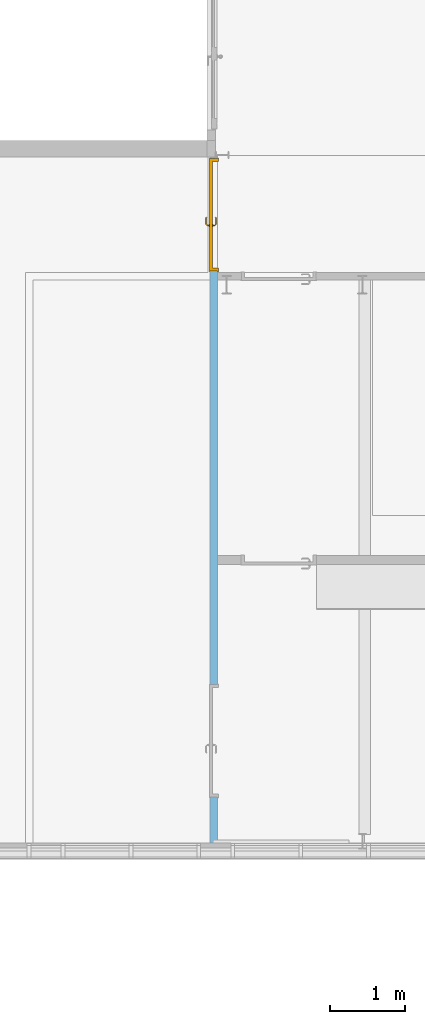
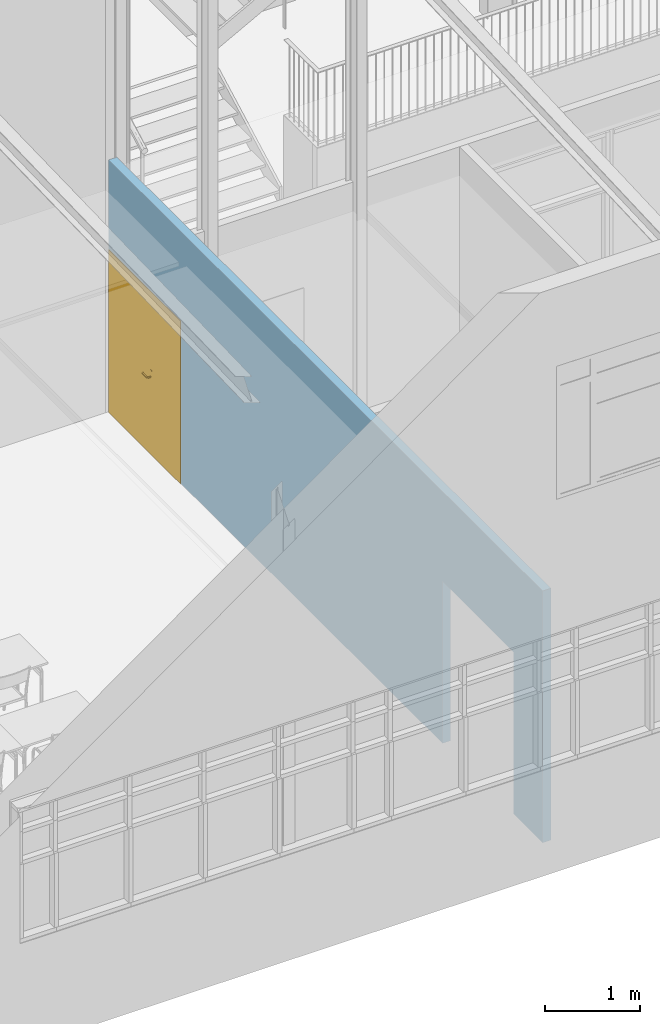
# One storey, part 80 of 137: 1 door, 2 openings, plus 1 element that does not belong to this part.
"""IFC2X3 building model written with IfcOpenShell, lengths in centimetres."""

from ifc_helpers import new_model, entity, si_unit, converted_unit, derived_unit, direction, frame, frame_2d, origin, place, context, subcontext, project, spatial, polyline, rectangle, extrude, clip, bounded_halfspace, faceted_brep, source, transform, mapped, material, material_list, layer, layer_set, layer_usage, type_object, type_shapes, element, fill, save


model = new_model("IFC2X3")

# Units and contexts
model_context = context("Model", 3, precision=0.001, world=origin(), true_north=direction((6.12303176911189e-17, 1.0)))
body_context = subcontext(model_context, "Body", "Model", "MODEL_VIEW")
ifc_project = project(units=[si_unit("LENGTHUNIT", "METRE", prefix="CENTI"), si_unit("AREAUNIT", "SQUARE_METRE"), si_unit("VOLUMEUNIT", "CUBIC_METRE"), converted_unit("PLANEANGLEUNIT", "DEGREE", entity("IfcRatioMeasure", 0.0174532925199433), si_unit("PLANEANGLEUNIT", "RADIAN"), dimensions=[0, 0, 0, 0, 0, 0, 0]), si_unit("MASSUNIT", "GRAM", prefix="KILO"), si_unit("TIMEUNIT", "SECOND"), si_unit("FREQUENCYUNIT", "HERTZ"), si_unit("THERMODYNAMICTEMPERATUREUNIT", "DEGREE_CELSIUS"), derived_unit("THERMALTRANSMITTANCEUNIT", [(si_unit("MASSUNIT", "GRAM", prefix="KILO"), 1), (si_unit("THERMODYNAMICTEMPERATUREUNIT", "KELVIN"), -1), (si_unit("TIMEUNIT", "SECOND"), -3)]), derived_unit("VOLUMETRICFLOWRATEUNIT", [(si_unit("LENGTHUNIT", "METRE"), 3), (si_unit("TIMEUNIT", "SECOND"), -1)]), si_unit("ELECTRICCURRENTUNIT", "AMPERE"), si_unit("ELECTRICVOLTAGEUNIT", "VOLT"), si_unit("POWERUNIT", "WATT"), si_unit("FORCEUNIT", "NEWTON", prefix="KILO"), si_unit("ILLUMINANCEUNIT", "LUX"), si_unit("LUMINOUSFLUXUNIT", "LUMEN"), si_unit("LUMINOUSINTENSITYUNIT", "CANDELA"), derived_unit("USERDEFINED", [(si_unit("MASSUNIT", "GRAM", prefix="KILO"), -1), (si_unit("LENGTHUNIT", "METRE"), -2), (si_unit("TIMEUNIT", "SECOND"), 3), (si_unit("LUMINOUSFLUXUNIT", "LUMEN"), 1)]), derived_unit("LINEARVELOCITYUNIT", [(si_unit("LENGTHUNIT", "METRE"), 1), (si_unit("TIMEUNIT", "SECOND"), -1)]), si_unit("PRESSUREUNIT", "PASCAL"), derived_unit("USERDEFINED", [(si_unit("LENGTHUNIT", "METRE"), -2), (si_unit("MASSUNIT", "GRAM", prefix="KILO"), 1), (si_unit("TIMEUNIT", "SECOND"), -2)])], contexts=[model_context])

# Site, building, storey
site_placement = place(None, frame((8.62739174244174, -249.285249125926, 0.0)))
site = spatial("IfcSite", under=ifc_project, at=site_placement, Name="Default", CompositionType="ELEMENT")
building_placement = place(site_placement, origin())
building = spatial("IfcBuilding", under=site, at=building_placement, CompositionType="ELEMENT")
storey_placement = place(building_placement, origin())
storey = spatial("IfcBuildingStorey", under=building, at=storey_placement, Name="RDC", CompositionType="ELEMENT", Elevation=-8.82465566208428e-11)

# Wall, openings, door
ifc_material_1 = material(Name="Plâtre EXISTANT")
ifc_layer = layer(ifc_material_1, 10.0)
ifc_layer_set = layer_set([ifc_layer], Name="Mur de base:PLA EXISTANT 10")
ifc_layer_usage = layer_usage(ifc_layer_set, "AXIS2", "NEGATIVE", 5.0)
wall_type = type_object("IfcWallType", Name="Mur de base:PLA EXISTANT 10", PredefinedType="STANDARD", material=ifc_layer_set)
wall_placement = place(storey_placement, frame((849.0, 931.0, 0.0), z_axis=(0.0, 0.0, 1.0), x_axis=(0.0, -1.0, 0.0)))
wall = element("IfcWallStandardCase", 1, at=wall_placement, inside=storey, type_object=wall_type, material=ifc_layer_usage, Name="Mur de base:PLA EXISTANT 10", ObjectType="Mur de base:PLA EXISTANT 10", context=body_context, shape_type="Clipping", body=[
    clip(extrude(rectangle(XDim=909.0, YDim=10.0000000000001, at=frame_2d((454.5, -2.66453525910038e-15), x_axis=(-1.0, 0.0))), origin(), (0.0, 0.0, 1.0), 322.000000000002), bounded_halfspace(frame((0.0, -5.0, 322.0), z_axis=(0.0, 0.0, -1.0), x_axis=(0.0, -1.0, 0.0)), True, frame((0.0, -5.0, 322.0)), polyline([(0.0, 0.0), (909.0, 0.0), (909.0, 10.0), (540.0, 10.0), (528.0, 10.0), (163.0, 10.0), (153.0, 10.0), (0.0, 10.0), (0.0, 0.0)]))),
])
opening_1_placement = place(wall_placement, frame((848.219999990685, 5.0, 0.0)))
element("IfcOpeningElement", 2, at=opening_1_placement, cuts=wall, Name="Double(R)_bois_Existant_mu:143 x 204 cm:1", ObjectType="Opening", context=body_context, shape_type="SweptSolid", body=[
    extrude(rectangle(XDim=206.999999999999, YDim=149.0, at=frame_2d((103.499999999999, 74.4999999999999), x_axis=(1.0, 0.0))), frame((0.0, 0.0, 0.0), z_axis=(0.0, -1.0, 0.0), x_axis=(0.0, 0.0, 1.0)), (0.0, 0.0, 1.0), 10.0),
])
opening_2_placement = place(wall_placement, frame((151.0, 5.0, 0.0)))
opening_2 = element("IfcOpeningElement", 3, at=opening_2_placement, cuts=wall, Name="Tierce(R)_bois_mu:143 x 204 cm:1", ObjectType="Opening", context=body_context, shape_type="SweptSolid", body=[
    extrude(rectangle(XDim=206.999999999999, YDim=149.0, at=frame_2d((103.499999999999, 74.4999999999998), x_axis=(1.0, 0.0))), frame((0.0, 0.0, 0.0), z_axis=(0.0, -1.0, 0.0), x_axis=(0.0, 0.0, 1.0)), (0.0, 0.0, 1.0), 10.0),
])
ifc_material_2 = material(Name="Aluminium-Dorma Metal-Anodized Silver")
ifc_material_3 = material(Name="Porte - Cadre")
ifc_material_4 = material(Name="Porte - Panneau")
ifc_material_list_1 = material_list([ifc_material_2, ifc_material_3, ifc_material_4])
ifc_material_list_2 = material_list([ifc_material_2, ifc_material_3, ifc_material_4])
door_style = type_object("IfcDoorStyle", Name="143 x 204 cm", ConstructionType="NOTDEFINED", OperationType="NOTDEFINED", ParameterTakesPrecedence=False, Sizeable=False, material=ifc_material_list_2)
shared_shape = source(origin(), body_context, "Body", "Brep", [
    faceted_brep([(88.7025298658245, 3.69999999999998, 100.778044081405), (88.2974701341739, 3.69999999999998, 100.778044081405), (87.8999999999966, 3.69999999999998, 100.699999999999), (87.8999999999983, 3.69999999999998, 99.3000000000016), (88.2974701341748, 3.69999999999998, 99.2219559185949), (88.7025298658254, 3.69999999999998, 99.2219559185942), (89.1000000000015, 3.69999999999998, 99.2999999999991), (89.1000000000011, 3.69999999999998, 100.699999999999), (87.8999999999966, 5.94852045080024, 100.699999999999), (87.8999999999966, 5.94852045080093, 99.3000000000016), (88.2974701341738, 6.1131579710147, 100.778044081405), (88.7025298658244, 6.2809392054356, 100.778044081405), (87.0838906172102, 7.89957845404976, 100.778044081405), (86.9161093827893, 7.49451872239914, 100.778044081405), (78.5793122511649, 7.49451872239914, 100.778044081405), (78.411531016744, 7.89957845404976, 100.778044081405), (77.6451046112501, 7.13315204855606, 100.778044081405), (77.9315250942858, 6.84673156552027, 100.778044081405), (89.1000000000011, 6.44557672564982, 100.699999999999), (89.1000000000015, 6.44557672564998, 99.2999999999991), (88.7025298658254, 6.28093920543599, 99.2219559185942), (88.2974701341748, 6.11315797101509, 99.2219559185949), (86.9161093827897, 7.49451872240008, 99.2219559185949), (87.0838906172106, 7.8995784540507, 99.2219559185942), (78.4115310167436, 7.8995784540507, 99.2219559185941), (78.5793122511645, 7.49451872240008, 99.2219559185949), (77.9315250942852, 6.84673156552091, 99.2219559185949), (77.6451046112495, 7.1331520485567, 99.2219559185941), (86.7514718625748, 7.09704858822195, 100.699999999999), (86.7514718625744, 7.09704858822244, 99.3000000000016), (87.2485281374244, 8.29704858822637, 100.699999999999), (87.2485281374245, 8.29704858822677, 99.2999999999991), (82.7477108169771, 7.09704858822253, 100.699999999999), (78.7439497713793, 7.09704858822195, 100.699999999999), (78.7439497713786, 7.09704858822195, 99.3000000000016), (82.7477108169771, 7.09704858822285, 99.3000000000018), (82.7477108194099, 7.71249275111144, 100.787811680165), (82.2399422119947, 8.29704858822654, 100.699999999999), (78.2468934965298, 8.29704858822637, 100.699999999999), (83.2554791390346, 8.29704858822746, 99.2999999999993), (78.2468934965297, 8.29704858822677, 99.2999999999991), (82.7477107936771, 7.71249274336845, 99.2121883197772), (77.3640507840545, 7.41420587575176, 100.699999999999), (77.364050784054, 7.41420587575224, 99.2999999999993), (78.2125789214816, 6.5656777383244, 99.3000000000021), (78.2125789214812, 6.56567773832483, 100.699999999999)], [[[0, 1, 2, 3, 4, 5, 6, 7]], [[8, 9, 3, 2]], [[1, 10, 8, 2]], [[1, 0, 11, 12, 13, 10]], [[14, 15, 16, 17]], [[7, 18, 11, 0]], [[18, 7, 6, 19]], [[6, 5, 20, 19]], [[5, 4, 21, 22, 23, 20]], [[24, 25, 26, 27]], [[4, 3, 9, 21]], [[28, 29, 9, 8]], [[8, 10, 13, 28]], [[18, 30, 12, 11]], [[31, 30, 18, 19]], [[19, 20, 23, 31]], [[21, 9, 29, 22]], [[29, 28, 32, 33, 34, 35]], [[36, 32, 13]], [[37, 38, 15]], [[37, 12, 30]], [[36, 12, 37]], [[14, 32, 36]], [[36, 15, 14]], [[28, 13, 32]], [[32, 14, 33]], [[12, 36, 13]], [[15, 36, 37]], [[30, 31, 39, 40, 38, 37]], [[23, 41, 39]], [[24, 39, 41]], [[39, 31, 23]], [[39, 24, 40]], [[22, 35, 41]], [[41, 23, 22]], [[41, 35, 25]], [[35, 22, 29]], [[34, 25, 35]], [[24, 41, 25]], [[17, 16, 42, 43, 27, 26, 44, 45]], [[45, 44, 34, 33]], [[33, 14, 17, 45]], [[15, 38, 42, 16]], [[43, 42, 38, 40]], [[24, 27, 43, 40]], [[34, 44, 26, 25]]]),
    faceted_brep([(88.2974701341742, -1.30000000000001, 100.778044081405), (88.7025298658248, -1.30000000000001, 100.778044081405), (89.1000000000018, -1.30000000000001, 100.699999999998), (89.1000000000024, -1.30000000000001, 99.2999999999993), (88.7025298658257, -1.30000000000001, 99.2219559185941), (88.297470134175, -1.30000000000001, 99.2219559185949), (87.899999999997, -1.30000000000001, 99.3000000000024), (87.8999999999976, -1.30000000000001, 100.699999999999), (88.7025298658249, -3.90045754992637, 100.778044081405), (89.100000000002, -4.06509507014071, 100.699999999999), (88.2974701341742, -3.73267631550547, 100.778044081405), (86.9298602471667, -5.10028620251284, 100.778044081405), (87.0976414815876, -5.50534593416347, 100.778044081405), (78.4142453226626, -5.50534593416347, 100.778044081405), (78.5820265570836, -5.10028620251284, 100.778044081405), (77.9342394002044, -4.4524990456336, 100.778044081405), (77.6478189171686, -4.73891952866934, 100.778044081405), (87.8999999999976, -3.56803879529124, 100.699999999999), (87.899999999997, -3.56803879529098, 99.3000000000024), (88.297470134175, -3.7326763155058, 99.2219559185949), (88.7025298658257, -3.9004575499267, 99.2219559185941), (87.097641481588, -5.50534593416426, 99.2219559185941), (86.9298602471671, -5.10028620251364, 99.2219559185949), (78.5820265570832, -5.10028620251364, 99.2219559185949), (78.4142453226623, -5.50534593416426, 99.2219559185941), (77.6478189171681, -4.73891952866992, 99.2219559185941), (77.9342394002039, -4.45249904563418, 99.2219559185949), (89.1000000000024, -4.06509507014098, 99.2999999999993), (87.2622790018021, -5.90281606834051, 100.699999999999), (86.7652227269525, -4.70281606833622, 100.699999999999), (86.7652227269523, -4.70281606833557, 99.3000000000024), (87.2622790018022, -5.90281606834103, 99.2999999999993), (82.7559433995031, -5.31828027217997, 100.787811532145), (83.269230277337, -5.90281606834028, 100.699999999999), (78.2496078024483, -5.90281606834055, 100.699999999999), (82.755943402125, -4.70281606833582, 100.699999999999), (78.7466640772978, -4.70281606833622, 100.699999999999), (82.7559436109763, -4.70281606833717, 99.3000000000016), (78.7466640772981, -4.70281606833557, 99.3000000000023), (82.7559434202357, -5.31828027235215, 99.2121884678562), (82.2426572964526, -5.90281606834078, 99.2999999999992), (78.249607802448, -5.90281606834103, 99.2999999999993), (78.2152932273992, -4.17144521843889, 99.3000000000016), (77.366765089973, -5.01997335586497, 99.2999999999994), (77.3667650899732, -5.01997335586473, 100.699999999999), (78.2152932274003, -4.17144521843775, 100.699999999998)], [[[0, 1, 2, 3, 4, 5, 6, 7]], [[2, 1, 8, 9]], [[1, 0, 10, 11, 12, 8]], [[13, 14, 15, 16]], [[0, 7, 17, 10]], [[18, 17, 7, 6]], [[5, 19, 18, 6]], [[5, 4, 20, 21, 22, 19]], [[23, 24, 25, 26]], [[3, 27, 20, 4]], [[9, 27, 3, 2]], [[9, 8, 12, 28]], [[10, 17, 29, 11]], [[30, 29, 17, 18]], [[18, 19, 22, 30]], [[20, 27, 31, 21]], [[28, 31, 27, 9]], [[12, 32, 33]], [[13, 33, 32]], [[33, 28, 12]], [[33, 13, 34]], [[11, 35, 32]], [[32, 12, 11]], [[32, 35, 14]], [[35, 11, 29]], [[36, 14, 35]], [[13, 32, 14]], [[29, 30, 37, 38, 36, 35]], [[39, 37, 22]], [[40, 41, 24]], [[40, 21, 31]], [[39, 21, 40]], [[23, 37, 39]], [[39, 24, 23]], [[30, 22, 37]], [[37, 23, 38]], [[21, 39, 22]], [[24, 39, 40]], [[31, 28, 33, 34, 41, 40]], [[42, 26, 25, 43, 44, 16, 15, 45]], [[13, 16, 44, 34]], [[36, 45, 15, 14]], [[42, 45, 36, 38]], [[38, 23, 26, 42]], [[24, 41, 43, 25]], [[44, 43, 41, 34]]]),
    faceted_brep([(88.4999999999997, 3.19999999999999, 86.4641016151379), (89.5352761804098, 3.19999999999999, 86.6003983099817), (90.4999999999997, 3.19999999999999, 87.0), (90.4999999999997, 3.19999999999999, 108.0), (89.5352761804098, 3.19999999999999, 108.399601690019), (88.4999999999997, 3.19999999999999, 108.535898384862), (87.4647238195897, 3.19999999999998, 108.399601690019), (86.4999999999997, 3.19999999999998, 108.0), (86.4999999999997, 3.19999999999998, 87.0), (87.4647238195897, 3.19999999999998, 86.6003983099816), (88.4999999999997, 3.69999999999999, 108.535898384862), (89.5352761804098, 3.69999999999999, 108.399601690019), (90.4999999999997, 3.69999999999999, 108.0), (90.4999999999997, 3.69999999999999, 87.0), (89.5352761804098, 3.69999999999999, 86.6003983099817), (88.4999999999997, 3.69999999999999, 86.4641016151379), (87.4647238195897, 3.69999999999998, 86.6003983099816), (86.4999999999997, 3.69999999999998, 87.0), (86.4999999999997, 3.69999999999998, 108.0), (87.4647238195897, 3.69999999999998, 108.399601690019)], [[[0, 1, 2, 3, 4, 5, 6, 7, 8, 9]], [[10, 11, 12, 13, 14, 15, 16, 17, 18, 19]], [[6, 19, 18, 7]], [[5, 10, 19, 6]], [[4, 11, 10, 5]], [[4, 3, 12, 11]], [[12, 3, 2, 13]], [[1, 14, 13, 2]], [[0, 15, 14, 1]], [[9, 16, 15, 0]], [[9, 8, 17, 16]], [[17, 8, 7, 18]]]),
    faceted_brep([(88.4999999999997, -1.30000000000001, 86.4641016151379), (89.5352761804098, -1.30000000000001, 86.6003983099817), (90.4999999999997, -1.3, 87.0), (90.4999999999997, -1.3, 108.0), (89.5352761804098, -1.30000000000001, 108.399601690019), (88.4999999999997, -1.30000000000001, 108.535898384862), (87.4647238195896, -1.30000000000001, 108.399601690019), (86.4999999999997, -1.30000000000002, 108.0), (86.4999999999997, -1.30000000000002, 87.0), (87.4647238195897, -1.30000000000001, 86.6003983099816), (90.4999999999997, -0.800000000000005, 108.0), (90.4999999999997, -0.800000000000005, 87.0), (89.5352761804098, -0.800000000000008, 86.6003983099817), (88.4999999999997, -0.800000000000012, 86.4641016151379), (87.4647238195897, -0.800000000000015, 86.6003983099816), (86.4999999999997, -0.800000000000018, 87.0), (86.4999999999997, -0.800000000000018, 108.0), (87.4647238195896, -0.800000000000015, 108.399601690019), (88.4999999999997, -0.800000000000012, 108.535898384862), (89.5352761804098, -0.800000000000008, 108.399601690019)], [[[0, 1, 2, 3, 4, 5, 6, 7, 8, 9]], [[10, 11, 12, 13, 14, 15, 16, 17, 18, 19]], [[1, 12, 11, 2]], [[0, 13, 12, 1]], [[9, 14, 13, 0]], [[9, 8, 15, 14]], [[15, 8, 7, 16]], [[6, 17, 16, 7]], [[5, 18, 17, 6]], [[4, 19, 18, 5]], [[4, 3, 10, 19]], [[10, 3, 2, 11]]]),
    faceted_brep([(0.0, 0.0, 0.0), (0.0, 10.0, 0.0), (-1.0, 10.0, 0.0), (-1.0, 10.8000000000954, 0.0), (4.0, 10.8000000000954, 0.0), (4.0, 3.2, 0.0), (3.0, 3.2, 0.0), (3.0, -0.799999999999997, 0.0), (-1.0, -0.799999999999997, 0.0), (-1.0, 0.0, 0.0), (0.0, 0.0, 207.0), (0.0, 10.0, 207.0), (149.0, 10.0, 207.0), (149.0, 10.0, 0.0), (150.0, 10.0, 0.0), (150.0, 10.0, 208.0), (-1.0, 10.0, 208.0), (-1.0, 10.8000000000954, 208.0), (150.0, 10.8000000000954, 208.0), (150.0, 10.8000000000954, 0.0), (145.0, 10.8000000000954, 0.0), (145.0, 10.8000000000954, 203.0), (4.0, 10.8000000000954, 203.0), (4.0, 3.2, 203.0), (145.0, 3.2, 203.0), (145.0, 3.2, 0.0), (146.0, 3.2, 0.0), (146.0, 3.2, 204.0), (3.0, 3.2, 204.0), (3.0, -0.799999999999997, 204.0), (146.0, -0.799999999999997, 204.0), (146.0, -0.799999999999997, 0.0), (150.0, -0.799999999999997, 0.0), (150.0, -0.799999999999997, 208.0), (-1.0, -0.799999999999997, 208.0), (-1.0, 0.0, 208.0), (150.0, 0.0, 208.0), (150.0, 0.0, 0.0), (149.0, 0.0, 0.0), (149.0, 0.0, 207.0)], [[[0, 1, 2, 3, 4, 5, 6, 7, 8, 9]], [[1, 0, 10, 11]], [[2, 1, 11, 12, 13, 14, 15, 16]], [[3, 2, 16, 17]], [[4, 3, 17, 18, 19, 20, 21, 22]], [[5, 4, 22, 23]], [[6, 5, 23, 24, 25, 26, 27, 28]], [[7, 6, 28, 29]], [[8, 7, 29, 30, 31, 32, 33, 34]], [[9, 8, 34, 35]], [[0, 9, 35, 36, 37, 38, 39, 10]], [[12, 39, 38, 13]], [[38, 37, 32, 31, 26, 25, 20, 19, 14, 13]], [[18, 15, 14, 19]], [[24, 21, 20, 25]], [[30, 27, 26, 31]], [[36, 33, 32, 37]], [[11, 10, 39, 12]], [[17, 16, 15, 18]], [[23, 22, 21, 24]], [[29, 28, 27, 30]], [[35, 34, 33, 36]]]),
    faceted_brep([(146.0, -0.799999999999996, 204.0), (94.0, -0.799999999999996, 204.0), (94.0, -0.799999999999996, 0.0), (146.0, -0.799999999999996, 0.0), (146.0, 3.2, 204.0), (146.0, 3.2, 0.0), (94.0, 3.2, 0.0), (94.0, 3.2, 204.0)], [[[0, 1, 2, 3]], [[4, 5, 6, 7]], [[1, 0, 4, 7]], [[2, 1, 7, 6]], [[3, 2, 6, 5]], [[0, 3, 5, 4]]]),
    faceted_brep([(3.0, -0.799999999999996, 0.0), (94.0, -0.799999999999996, 0.0), (94.0, -0.799999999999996, 204.0), (3.0, -0.799999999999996, 204.0), (3.0, 3.2, 0.0), (3.0, 3.2, 204.0), (94.0, 3.2, 204.0), (94.0, 3.2, 0.0)], [[[0, 1, 2, 3]], [[4, 5, 6, 7]], [[1, 0, 4, 7]], [[2, 1, 7, 6]], [[3, 2, 6, 5]], [[0, 3, 5, 4]]]),
])
type_shapes(door_style, [shared_shape])
door_placement = place(opening_2_placement, frame((-149.0, -10.0, 0.0)))
door = element("IfcDoor", 4, at=door_placement, inside=storey, type_object=door_style, material=ifc_material_list_1, Name="Tierce(R)_bois_mu:143 x 204 cm", ObjectType="143 x 204 cm", OverallHeight=206.999999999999, OverallWidth=149.0, context=body_context, shape_type="MappedRepresentation", body=[
    mapped(shared_shape, transform((0.0, 0.0, 0.0), scale=1.0)),
])
fill(opening_2, door)

save(model, "model.ifc")
